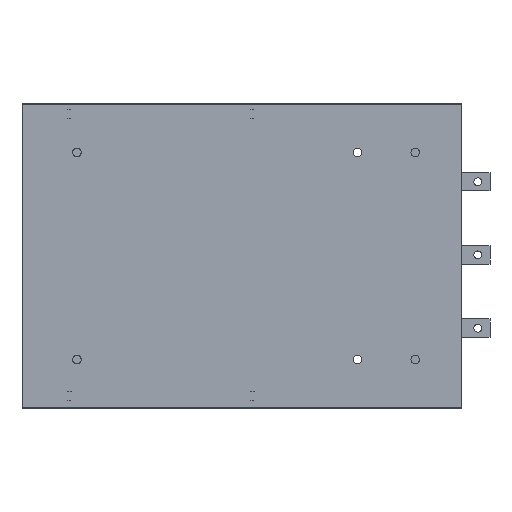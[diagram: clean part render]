
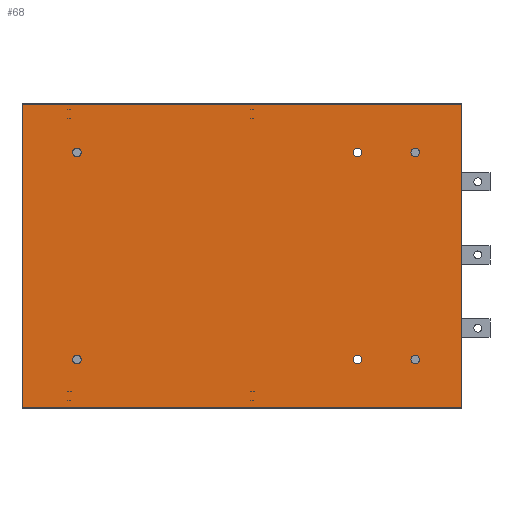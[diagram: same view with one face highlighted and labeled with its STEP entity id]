
A CAD part, front view. The second image highlights one B-rep face of the part: STEP entity #68.
In plain terms, the highlighted planar face has unit normal (0, -1, 0).
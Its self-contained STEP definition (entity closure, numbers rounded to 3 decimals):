
#68=ADVANCED_FACE('',(#3515,#3517,#3519,#3521,#3523,#3525,#3527),#3529,.T.);
#3515=FACE_BOUND('',#3516,.T.);
#3516=EDGE_LOOP('',(#6312,#6313,#6314,#6315));
#3517=FACE_BOUND('',#3518,.T.);
#3518=EDGE_LOOP('',(#6316));
#3519=FACE_BOUND('',#3520,.T.);
#3520=EDGE_LOOP('',(#6317));
#3521=FACE_BOUND('',#3522,.T.);
#3522=EDGE_LOOP('',(#6318));
#3523=FACE_BOUND('',#3524,.T.);
#3524=EDGE_LOOP('',(#6319));
#3525=FACE_BOUND('',#3526,.T.);
#3526=EDGE_LOOP('',(#6320));
#3527=FACE_BOUND('',#3528,.T.);
#3528=EDGE_LOOP('',(#6321));
#3529=PLANE('',#3530);
#3530=AXIS2_PLACEMENT_3D('',#3531,#3532,#3533);
#3531=CARTESIAN_POINT('',(603.8,-71.,-19.955));
#3532=DIRECTION('',(0.,-1.,0.));
#3533=DIRECTION('',(0.,0.,1.));
#6312=ORIENTED_EDGE('',*,*,#8450,.T.);
#6313=ORIENTED_EDGE('',*,*,#8451,.F.);
#6314=ORIENTED_EDGE('',*,*,#8452,.F.);
#6315=ORIENTED_EDGE('',*,*,#8453,.T.);
#6316=ORIENTED_EDGE('',*,*,#8454,.T.);
#6317=ORIENTED_EDGE('',*,*,#8455,.T.);
#6318=ORIENTED_EDGE('',*,*,#8456,.T.);
#6319=ORIENTED_EDGE('',*,*,#8457,.T.);
#6320=ORIENTED_EDGE('',*,*,#8458,.T.);
#6321=ORIENTED_EDGE('',*,*,#8459,.T.);
#8450=EDGE_CURVE('',#9480,#9481,#9482,.T.);
#8451=EDGE_CURVE('',#9483,#9481,#9484,.T.);
#8452=EDGE_CURVE('',#9485,#9483,#9486,.T.);
#8453=EDGE_CURVE('',#9485,#9480,#9487,.T.);
#8454=EDGE_CURVE('',#9488,#9488,#9489,.F.);
#8455=EDGE_CURVE('',#9490,#9490,#9491,.F.);
#8456=EDGE_CURVE('',#9492,#9492,#9493,.F.);
#8457=EDGE_CURVE('',#9494,#9494,#9495,.F.);
#8458=EDGE_CURVE('',#9496,#9496,#9497,.F.);
#8459=EDGE_CURVE('',#9498,#9498,#9499,.F.);
#9480=VERTEX_POINT('',#11202);
#9481=VERTEX_POINT('',#11203);
#9482=LINE('',#11204,#11205);
#9483=VERTEX_POINT('',#11207);
#9484=LINE('',#11208,#11209);
#9485=VERTEX_POINT('',#11211);
#9486=LINE('',#11212,#11213);
#9487=LINE('',#11215,#11216);
#9488=VERTEX_POINT('',#11218);
#9489=CIRCLE('',#11219,7.);
#9490=VERTEX_POINT('',#11223);
#9491=CIRCLE('',#11224,7.);
#9492=VERTEX_POINT('',#11228);
#9493=CIRCLE('',#11229,7.);
#9494=VERTEX_POINT('',#11233);
#9495=CIRCLE('',#11234,7.);
#9496=VERTEX_POINT('',#11238);
#9497=CIRCLE('',#11239,7.);
#9498=VERTEX_POINT('',#11243);
#9499=CIRCLE('',#11244,7.);
#11202=CARTESIAN_POINT('',(714.283,-71.,476.463));
#11203=CARTESIAN_POINT('',(-6.2,-71.,476.463));
#11204=CARTESIAN_POINT('',(714.283,-71.,476.463));
#11205=VECTOR('',#11206,1.);
#11206=DIRECTION('',(-1.,0.,0.));
#11207=CARTESIAN_POINT('',(-6.2,-71.,-19.955));
#11208=CARTESIAN_POINT('',(-6.2,-71.,-19.955));
#11209=VECTOR('',#11210,1.);
#11210=DIRECTION('',(0.,0.,1.));
#11211=CARTESIAN_POINT('',(714.283,-71.,-19.955));
#11212=CARTESIAN_POINT('',(714.283,-71.,-19.955));
#11213=VECTOR('',#11214,1.);
#11214=DIRECTION('',(-1.,0.,0.));
#11215=CARTESIAN_POINT('',(714.283,-71.,-19.955));
#11216=VECTOR('',#11217,1.);
#11217=DIRECTION('',(0.,0.,1.));
#11218=CARTESIAN_POINT('',(90.8,-71.,398.254));
#11219=AXIS2_PLACEMENT_3D('',#11220,#11221,#11222);
#11220=CARTESIAN_POINT('',(83.8,-71.,398.254));
#11221=DIRECTION('',(0.,-1.,0.));
#11222=DIRECTION('',(1.,0.,0.));
#11223=CARTESIAN_POINT('',(550.8,-71.,398.254));
#11224=AXIS2_PLACEMENT_3D('',#11225,#11226,#11227);
#11225=CARTESIAN_POINT('',(543.8,-71.,398.254));
#11226=DIRECTION('',(0.,-1.,0.));
#11227=DIRECTION('',(1.,0.,0.));
#11228=CARTESIAN_POINT('',(645.8,-71.,398.254));
#11229=AXIS2_PLACEMENT_3D('',#11230,#11231,#11232);
#11230=CARTESIAN_POINT('',(638.8,-71.,398.254));
#11231=DIRECTION('',(0.,-1.,0.));
#11232=DIRECTION('',(1.,0.,0.));
#11233=CARTESIAN_POINT('',(90.8,-71.,58.254));
#11234=AXIS2_PLACEMENT_3D('',#11235,#11236,#11237);
#11235=CARTESIAN_POINT('',(83.8,-71.,58.254));
#11236=DIRECTION('',(0.,-1.,0.));
#11237=DIRECTION('',(1.,0.,0.));
#11238=CARTESIAN_POINT('',(550.8,-71.,58.254));
#11239=AXIS2_PLACEMENT_3D('',#11240,#11241,#11242);
#11240=CARTESIAN_POINT('',(543.8,-71.,58.254));
#11241=DIRECTION('',(0.,-1.,0.));
#11242=DIRECTION('',(1.,0.,0.));
#11243=CARTESIAN_POINT('',(645.8,-71.,58.254));
#11244=AXIS2_PLACEMENT_3D('',#11245,#11246,#11247);
#11245=CARTESIAN_POINT('',(638.8,-71.,58.254));
#11246=DIRECTION('',(0.,-1.,0.));
#11247=DIRECTION('',(1.,0.,0.));
